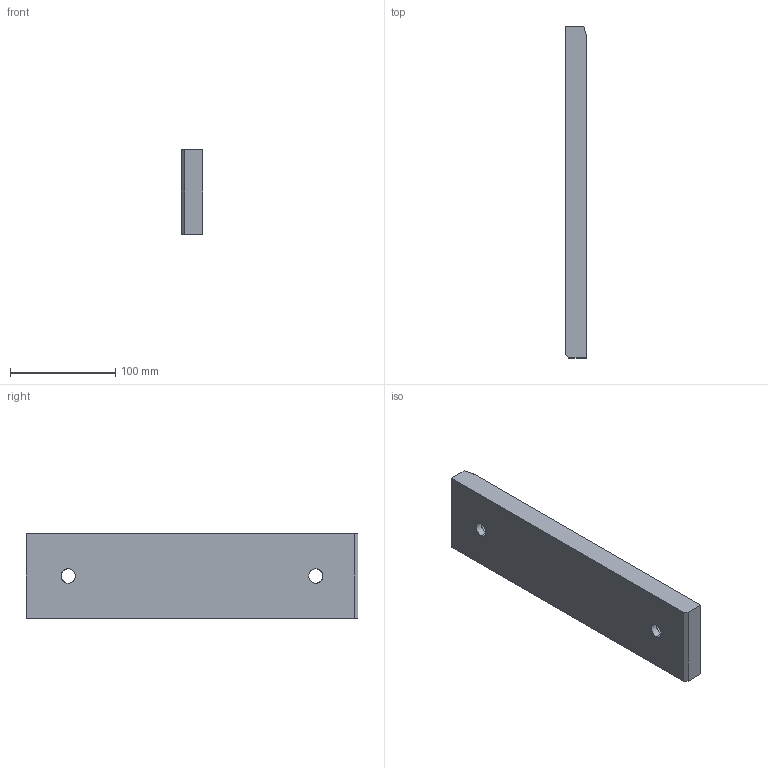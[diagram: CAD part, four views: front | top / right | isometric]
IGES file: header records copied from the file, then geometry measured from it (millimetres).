
Start section: START RECORD GO HERE.
Global section: file name: A915-80X315.igs; native system: DASSAULT SYSTEMES CATIA V5 R20 - www.3ds.com; preprocessor: CATIA Version 5 Release 20 ; author: Utente; organization: NB04-ASUS; date: 20200407.211443; units: millimetre
Bounding box: 20 x 315 x 80 mm (x, y, z)
Surface area: 67337.9 mm2 (no closed solid volume)
Topology: 0 solids, 0 shells, 23 faces, 106 edges, 106 vertices
Faces by surface type: revolution 13, extrusion 10
